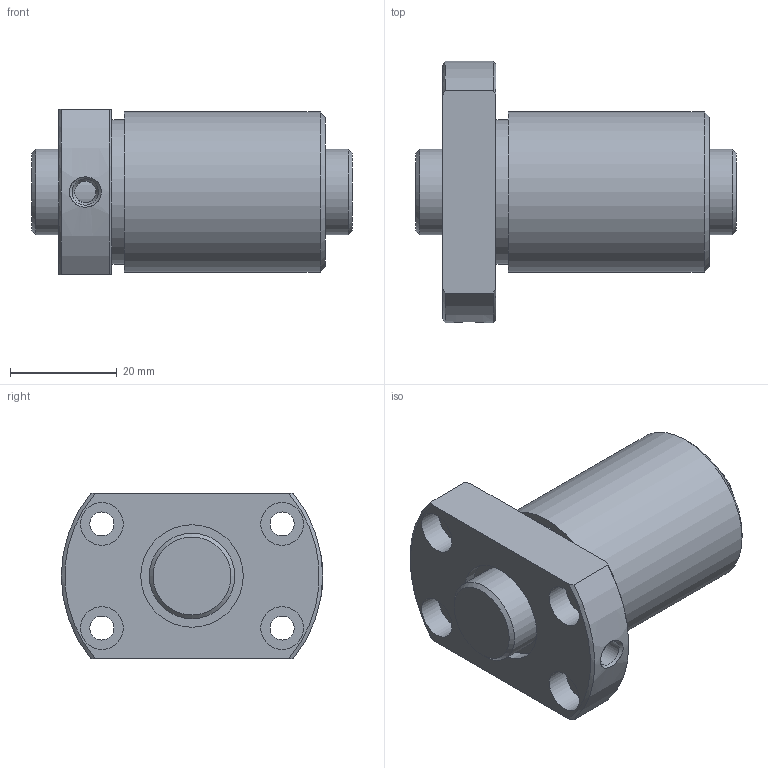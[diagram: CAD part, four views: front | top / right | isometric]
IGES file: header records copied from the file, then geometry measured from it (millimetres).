
Start section: Data from Parasolid IGES Translator 26.0.171, Copyright(c) 2006 Siemens PLM Software. All Rights Reserved.
Global section: file name: DK1605-4RRG1+60LC0_000.igs; native system: By Siemens PLM Incorporated; preprocessor: XPlus GENERIC/IGES 26.0.171; author: Noname; organization: Noname; date: 20250113.090755; units: millimetre
Bounding box: 60 x 49 x 31 mm (x, y, z)
Surface area: 14526.4 mm2 (no closed solid volume)
Topology: 0 solids, 0 shells, 41 faces, 174 edges, 143 vertices
Faces by surface type: revolution 27, extrusion 14
